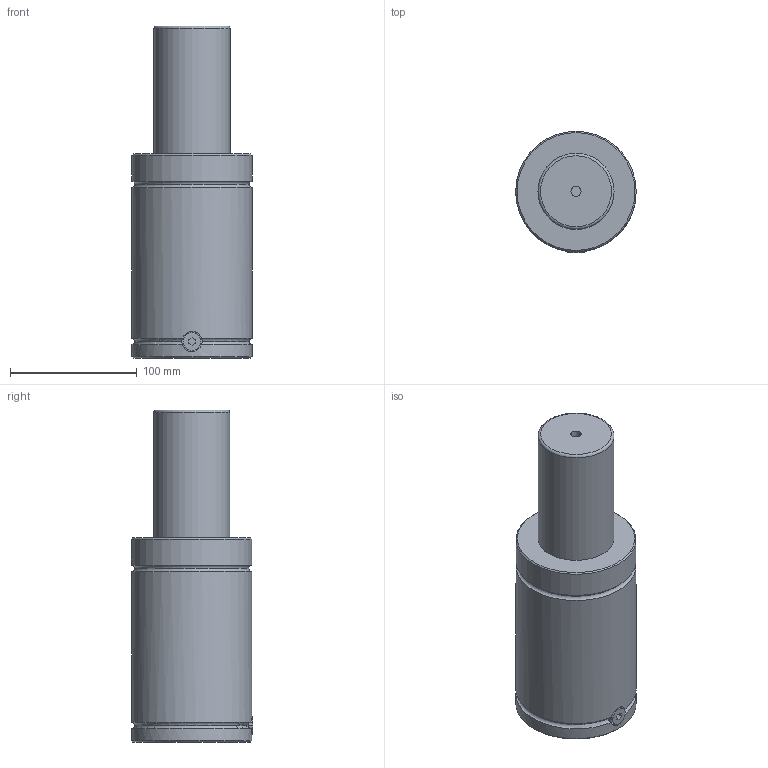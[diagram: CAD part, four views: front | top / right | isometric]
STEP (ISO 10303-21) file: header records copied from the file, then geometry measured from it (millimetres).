
FILE_DESCRIPTION(('FreeCAD Model'),'2;1');
FILE_NAME('Open CASCADE Shape Model','2024-11-13T17:16:51',('Author'),( ''),'Open CASCADE STEP processor 7.6','FreeCAD','Unknown');
FILE_SCHEMA(('AUTOMOTIVE_DESIGN { 1 0 10303 214 1 1 1 1 }'));
Length unit declared in the file: millimetre
Products named in the file (7): Unnamed1; Part005; Cut001; Part009; 3; Part014; Cut
Assembly tree (6 placements, depth 3):
  Unnamed1
    Part005
      Cut001
    Part009
      3
    Part014
      Cut
Bounding box: 95 x 95.5 x 262 mm (x, y, z)
Volume: 1415227.2 mm3; surface area: 90804 mm2
Topology: 3 solids, 3 shells, 45 faces, 84 edges, 52 vertices
Faces by surface type: plane 20, cylinder 14, torus 7, cone 4
Full cylindrical faces by diameter (mm): 8 x1, 12 x4, 16 x1, 60 x1, 95 x3
Entity records: 1485 total; most frequent: CARTESIAN_POINT 414, DIRECTION 224, ORIENTED_EDGE 168, AXIS2_PLACEMENT_3D 94, EDGE_CURVE 84, FACE_BOUND 52, EDGE_LOOP 52, VERTEX_POINT 52
